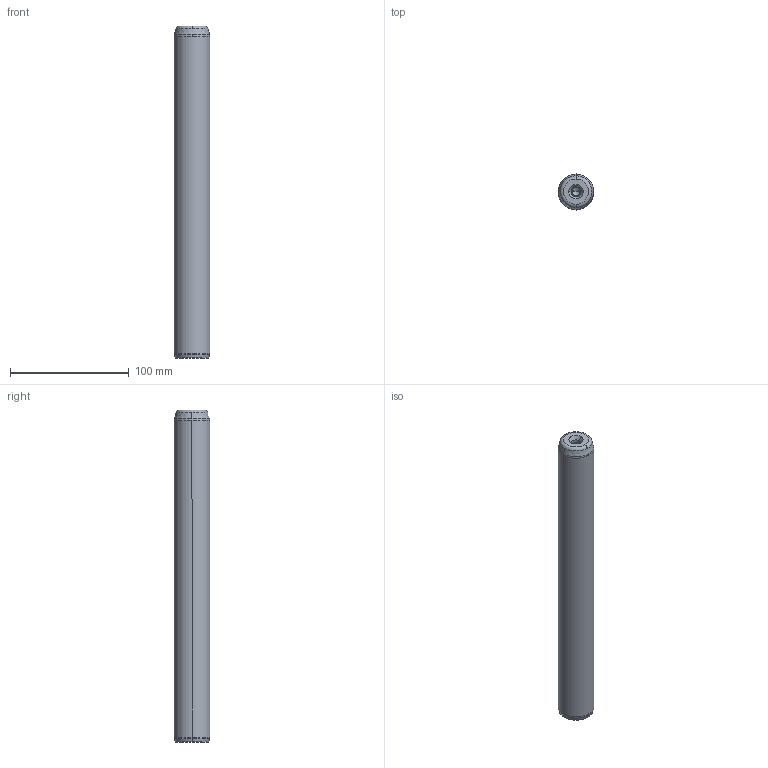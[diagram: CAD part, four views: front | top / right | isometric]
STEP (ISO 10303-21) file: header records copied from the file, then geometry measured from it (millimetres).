
FILE_DESCRIPTION((''),'2;1');
FILE_NAME('P10_030_280.stp','2008-12-23T15:00:55',(''),(''),'Mechanical Desktop 2009','Mechanical Desktop 2009',', , ');
FILE_SCHEMA(('CONFIG_CONTROL_DESIGN'));
Length unit declared in the file: millimetre
Products named in the file (5): Product; ProductAA; blmdl1; ProductA; blmdl1A
Assembly tree (2 placements, depth 3):
  Product
    ProductAA
      blmdl1
  ProductA
  blmdl1A
Bounding box: 30 x 30 x 280 mm (x, y, z)
Volume: 195766.5 mm3; surface area: 27972.1 mm2
Topology: 1 solids, 1 shells, 26 faces, 66 edges, 41 vertices
Faces by surface type: cone 10, torus 8, cylinder 6, plane 2
Entity records: 1012 total; most frequent: DIRECTION 170, CARTESIAN_POINT 134, ORIENTED_EDGE 128, AXIS2_PLACEMENT_3D 77, EDGE_CURVE 64, CIRCLE 48, VERTEX_POINT 41, EDGE_LOOP 27
